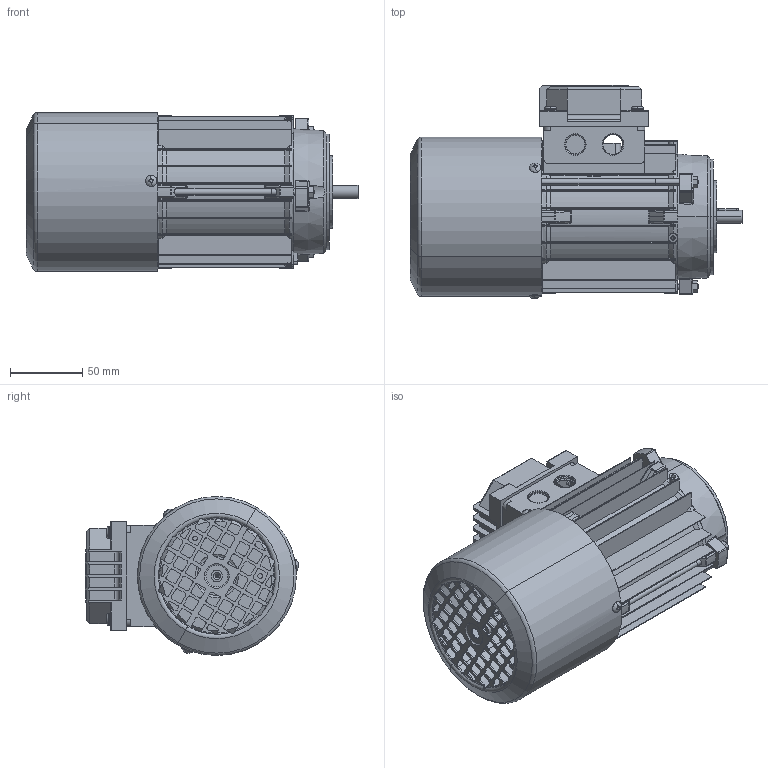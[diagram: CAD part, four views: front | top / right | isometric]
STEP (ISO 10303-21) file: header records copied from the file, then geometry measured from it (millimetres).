
FILE_DESCRIPTION (( 'STEP AP214' ), '1' );
FILE_NAME ('M14AC0010.STEP', '2020-04-16T05:18:10', ( '' ), ( '' ), 'SwSTEP 2.0', 'SolidWorks 2018', '' );
FILE_SCHEMA (( 'AUTOMOTIVE_DESIGN' ));
Length unit declared in the file: millimetre
Products named in the file (13): Guarnizione Coperchio Morsettiera gr. 56 - DHAF0102; Cuffia BM 56 - DHAI0103; Vite testa rotonda M3; Dado M4; Scudo a Flangia B14 BM 56 - DHAC0002; Chiavetta 56; Albero BM 56; Tirante BM-SM 56; Vite per coperchio morsettiera; Coperchio Morsettiera BM 56 - DHAE0002; Scudo Lato Freno P1 BM 56 - DHAB0002; Carcassa 56 B5; M14AC0010
Assembly tree (21 placements, depth 2):
  M14AC0010
    Carcassa 56 B5
    Scudo Lato Freno P1 BM 56 - DHAB0002
    Coperchio Morsettiera BM 56 - DHAE0002
    Vite per coperchio morsettiera  x4
    Tirante BM-SM 56  x3
    Albero BM 56
    Chiavetta 56
    Scudo a Flangia B14 BM 56 - DHAC0002
    Dado M4  x3
    Vite testa rotonda M3  x3
    Cuffia BM 56 - DHAI0103
    Guarnizione Coperchio Morsettiera gr. 56 - DHAF0102
Bounding box: 229.6 x 147.68 x 110 mm (x, y, z)
Volume: 349596.3 mm3; surface area: 299060.8 mm2
Topology: 24 solids, 24 shells, 2289 faces, 6093 edges, 3859 vertices
Faces by surface type: cylinder 889, plane 784, torus 323, cone 190, bspline 81, sphere 22
Entity records: 68263 total; most frequent: CARTESIAN_POINT 19454, ORIENTED_EDGE 10278, DIRECTION 9914, EDGE_CURVE 5139, AXIS2_PLACEMENT_3D 3725, VERTEX_POINT 3289, LINE 2464, VECTOR 2464
